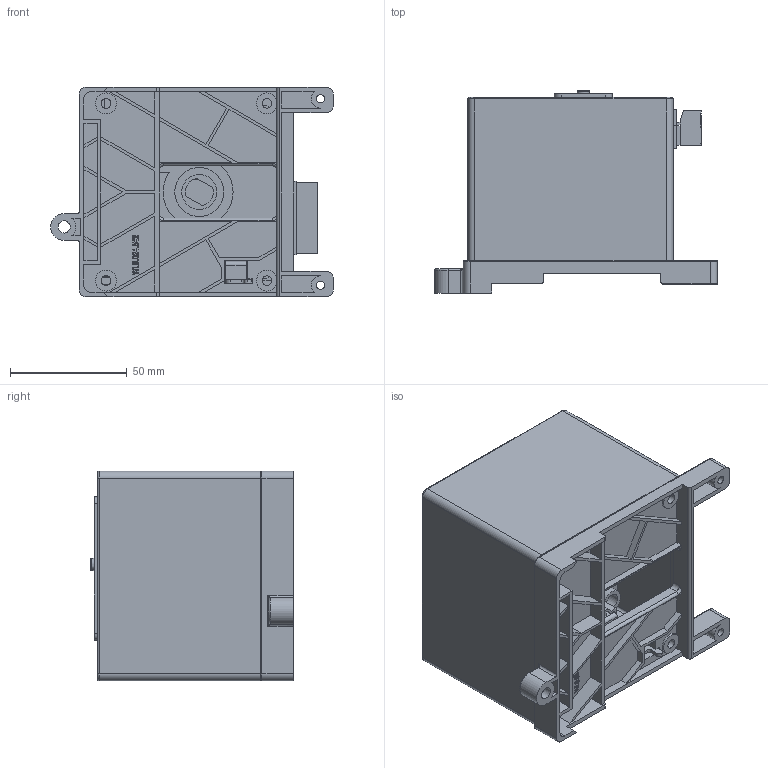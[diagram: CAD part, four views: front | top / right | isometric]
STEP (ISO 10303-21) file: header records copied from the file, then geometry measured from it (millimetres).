
FILE_DESCRIPTION(/* description */ (''),/* implementation_level */ '2;1');
FILE_NAME(/* name */ 'MOT12GM_3D DATA.stp',/* time_stamp */ '2017-12-26T17:16:56+09:00',/* author */ (''),/* organization */ (''),/* preprocessor_version */ 'ST-DEVELOPER v15',/* originating_system */ 'SIEMENS PLM Software NX 9.0',/* authorisation */ '');
FILE_SCHEMA (('AP203_CONFIGURATION_CONTROLLED_3D_DESIGN_OF_MECHANICAL_PARTS_AND_ASSEMBLIES_MIM_LF { 1 0 10303 403 2 1 2}'));
Products named in the file (11): _____id146_x_t; 12GM__WL8.310.237.2_id141_x_t; CD4B-12GM_id136_x_t; WL8.310.235.2_____id131_x_t; CD9-250____-POM-WL8.261.xd_id126_x_t; 6__________5.08_id121_x_t; _____________id116_x_t; MOT-12GM-_______WL8.235.434__id111_x_t; WL8.253.070 HY____-ABS_id106_x_t; 12GM____WL8.024.542_id101_x_t; CD4B-12GM_x_t
Assembly tree (10 placements, depth 2):
  CD4B-12GM_x_t
    12GM____WL8.024.542_id101_x_t
    WL8.253.070 HY____-ABS_id106_x_t
    MOT-12GM-_______WL8.235.434__id111_x_t
    _____________id116_x_t
    6__________5.08_id121_x_t
    CD9-250____-POM-WL8.261.xd_id126_x_t
    WL8.310.235.2_____id131_x_t
    CD4B-12GM_id136_x_t
    12GM__WL8.310.237.2_id141_x_t
    _____id146_x_t
Bounding box: 121.25 x 87 x 90 mm (x, y, z)
Volume: 126298.8 mm3; surface area: 141729.9 mm2
Topology: 10 solids, 10 shells, 1970 faces, 5388 edges, 3513 vertices
Faces by surface type: plane 1444, cylinder 313, extrusion 126, torus 55, cone 21, bspline 11
Full cylindrical faces by diameter (mm): 1.9 x2, 2.15 x2, 2.3 x1, 2.4 x1, 2.8 x6, 3.2 x3, 3.5 x4, 3.7 x6, 4 x1, 4.1 x2, 4.2 x3, 5.2 x2, 5.5 x2, 6 x4, 6.5 x4, 7 x1, 7.5 x2, 8.5 x1, 9 x4, 10 x1, 10.5 x2, 15 x1, 18 x1, 21 x1, 24 x1
Entity records: 68443 total; most frequent: CARTESIAN_POINT 17583, ORIENTED_EDGE 10596, DIRECTION 9565, EDGE_CURVE 5298, VECTOR 4349, LINE 4223, VERTEX_POINT 3495, AXIS2_PLACEMENT_3D 2608
